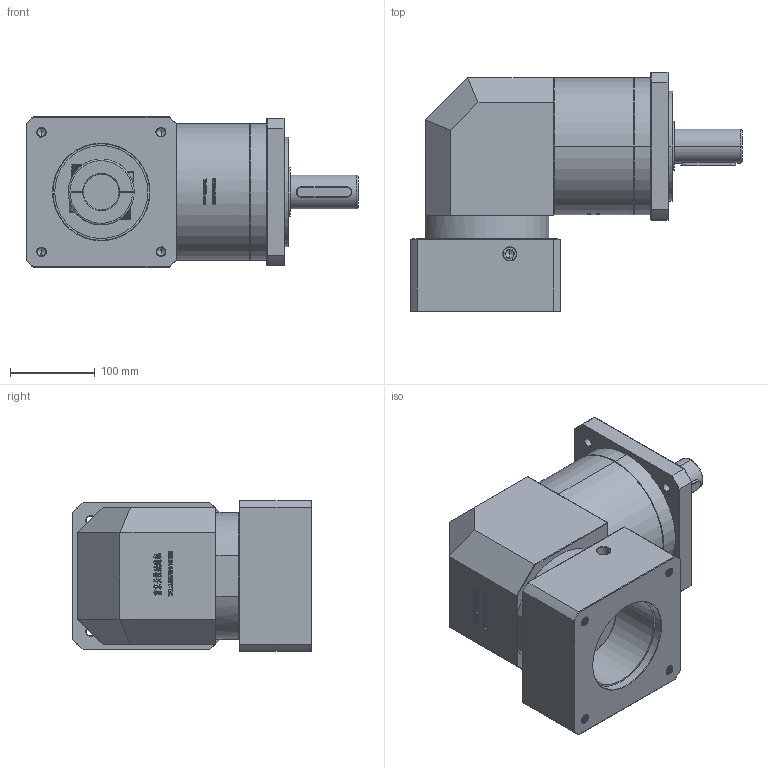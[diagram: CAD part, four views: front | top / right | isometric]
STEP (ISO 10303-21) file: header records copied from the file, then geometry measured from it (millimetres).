
FILE_DESCRIPTION (( 'STEP AP214' ), '1' );
FILE_NAME ('ZFR160A-D40-L2-42-114.3-200-M12.step', '2023-03-22T11:45:22', ( '' ), ( '' ), 'SwSTEP 2.0', 'SolidWorks 2016', '' );
FILE_SCHEMA (( 'AUTOMOTIVE_DESIGN' ));
Length unit declared in the file: millimetre
Products named in the file (1): ZFR160A-D40-L2-42-114.3-200-M12
Bounding box: 392.7 x 283.5 x 178 mm (x, y, z)
Volume: 8735051.1 mm3; surface area: 523323.1 mm2
Topology: 6 solids, 6 shells, 2502 faces, 6581 edges, 4233 vertices
Faces by surface type: plane 1273, bspline 497, cylinder 401, cone 309, torus 22
Entity records: 141900 total; most frequent: CARTESIAN_POINT 56931, ORIENTED_EDGE 13102, DIRECTION 9976, EDGE_CURVE 6551, VERTEX_POINT 4233, LINE 4146, VECTOR 4146, AXIS2_PLACEMENT_3D 2915
